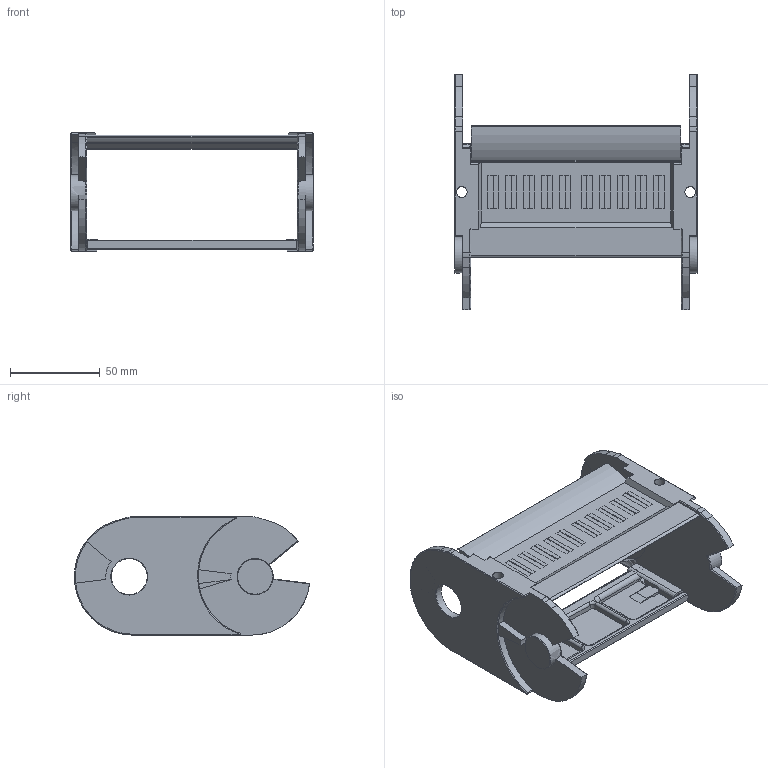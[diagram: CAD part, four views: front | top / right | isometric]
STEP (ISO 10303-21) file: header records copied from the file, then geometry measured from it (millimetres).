
FILE_DESCRIPTION((''),'2;1');
FILE_NAME('C:\Uebbing\PARAMETERKETTEN\KOLIBRI\Kol_65_135_1\Kol_65_135_1.stp','2011-11-02T15:09:47',('Uebbing'),(''),'Autodesk Inventor 10','Autodesk Inventor 10','');
FILE_SCHEMA(('AUTOMOTIVE_DESIGN { 1 0 10303 214 1 1 1 1 }'));
Length unit declared in the file: millimetre
Products named in the file (3): Kol_65_135_1; Kol_65_135_5 Lasche; Kol_65_135_1 Klappsteg
Assembly tree (2 placements, depth 2):
  Kol_65_135_1
    Kol_65_135_5 Lasche
    Kol_65_135_1 Klappsteg
Bounding box: 135 x 130.76 x 65.7 mm (x, y, z)
Volume: 104953.4 mm3; surface area: 70109 mm2
Topology: 2 solids, 2 shells, 577 faces, 1579 edges, 1011 vertices
Faces by surface type: plane 240, bspline 216, cylinder 97, torus 18, cone 4, sphere 2
Full cylindrical faces by diameter (mm): 2.514 x1, 4 x3, 4.414 x1, 6 x1, 20 x2
Entity records: 19520 total; most frequent: CARTESIAN_POINT 5452, ORIENTED_EDGE 3088, DIRECTION 2602, EDGE_CURVE 1544, VECTOR 1126, LINE 1126, VERTEX_POINT 1000, AXIS2_PLACEMENT_3D 738
